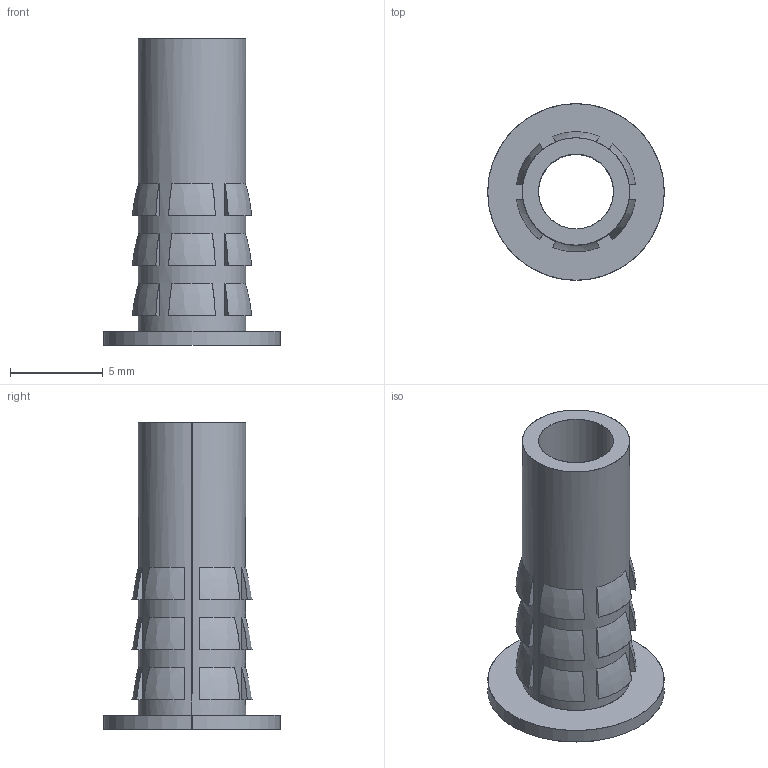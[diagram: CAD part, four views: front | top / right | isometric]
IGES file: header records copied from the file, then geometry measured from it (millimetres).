
Start section: SolidWorks IGES file using analytic representation for surfaces
Global section: file name: G:\thermofab project\INSERT\insert project\INSERT 3D\flanged insert 10-32 L1.IGS; native system: SolidWorks 2015; preprocessor: SolidWorks 2015; author: Administrator; date: 170809.120605; units: millimetre
Bounding box: 9.53 x 9.53 x 16.52 mm (x, y, z)
Surface area: 667.7 mm2 (no closed solid volume)
Topology: 0 solids, 0 shells, 83 faces, 692 edges, 692 vertices
Faces by surface type: bspline 75, revolution 8
